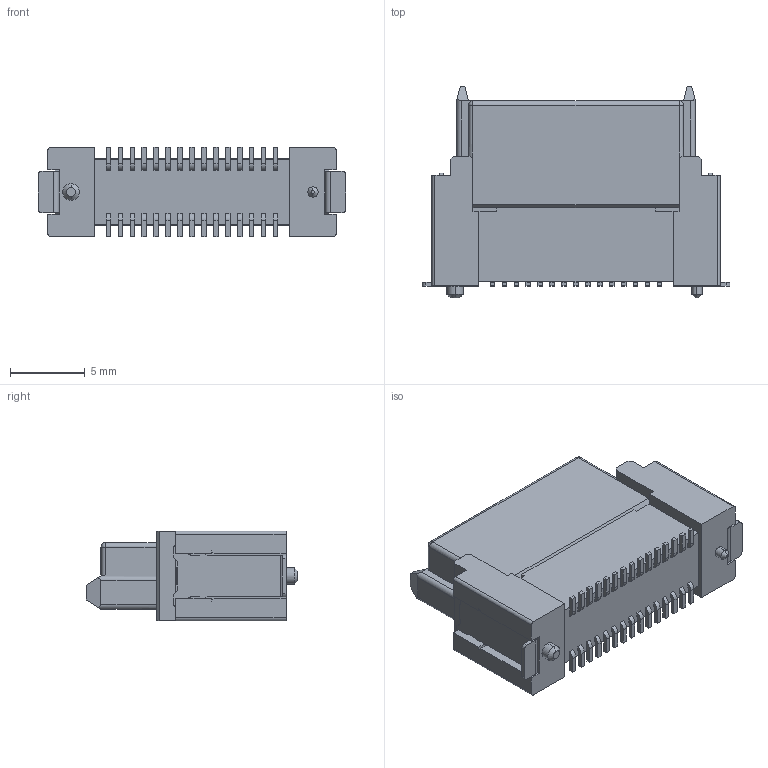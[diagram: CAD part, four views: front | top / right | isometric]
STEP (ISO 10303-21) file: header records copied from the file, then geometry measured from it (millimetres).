
FILE_DESCRIPTION (( 'STEP AP203' ), '1' );
FILE_NAME ('DFJ-RC030-S831124N(M)-FA.STEP', '2021-09-14T07:52:18', ( '' ), ( '' ), 'SwSTEP 2.0', 'SolidWorks 2018', '' );
FILE_SCHEMA (( 'CONFIG_CONTROL_DESIGN' ));
Length unit declared in the file: millimetre
Products named in the file (1): DFJ-RC030-S831124N(M)-FA
Bounding box: 20.6 x 14.2 x 6 mm (x, y, z)
Volume: 915.2 mm3; surface area: 1076.9 mm2
Topology: 1 solids, 1 shells, 707 faces, 1990 edges, 1316 vertices
Faces by surface type: plane 483, cylinder 217, cone 4, sphere 2, bspline 1
Entity records: 22694 total; most frequent: CARTESIAN_POINT 4819, ORIENTED_EDGE 3976, DIRECTION 3330, EDGE_CURVE 1988, VECTOR 1544, LINE 1544, VERTEX_POINT 1316, AXIS2_PLACEMENT_3D 893
